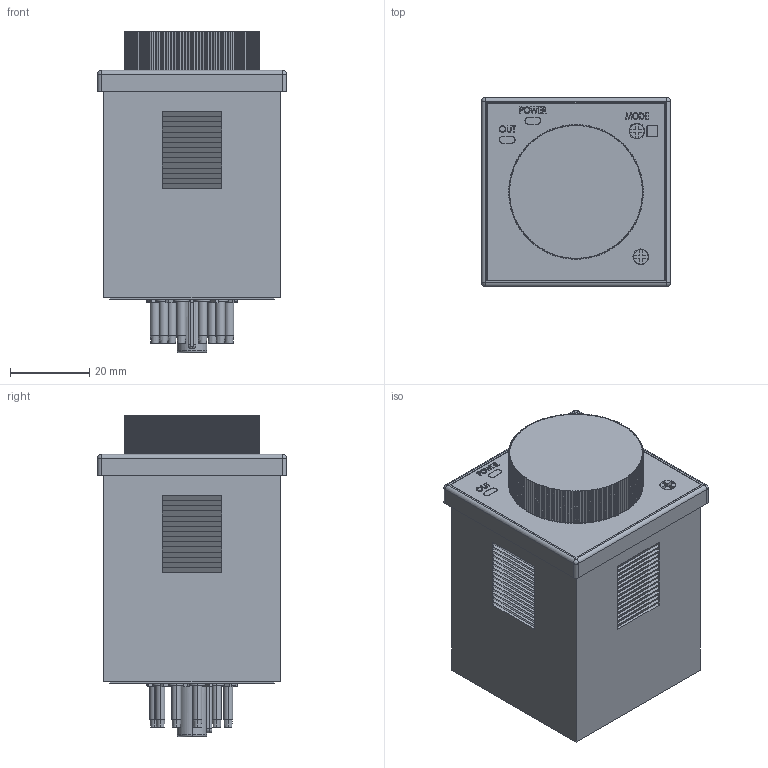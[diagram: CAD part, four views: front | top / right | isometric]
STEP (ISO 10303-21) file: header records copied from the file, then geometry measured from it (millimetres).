
FILE_DESCRIPTION (( 'STEP AP203' ), '1' );
FILE_NAME ('AV16BA.STEP', '2019-02-13T20:30:26', ( '' ), ( '' ), 'SwSTEP 2.0', 'SolidWorks 2012', '' );
FILE_SCHEMA (( 'CONFIG_CONTROL_DESIGN' ));
Products named in the file (1): AV16BA
Bounding box: 47.8 x 47.8 x 81.3 mm (x, y, z)
Volume: 119727.9 mm3; surface area: 22402.1 mm2
Topology: 1 solids, 3 shells, 1490 faces, 3901 edges, 2508 vertices
Faces by surface type: plane 762, cylinder 511, bspline 187, cone 22, torus 4, sphere 4
Entity records: 56987 total; most frequent: CARTESIAN_POINT 20516, ORIENTED_EDGE 7794, DIRECTION 7306, EDGE_CURVE 3897, VERTEX_POINT 2508, AXIS2_PLACEMENT_3D 2480, VECTOR 2346, LINE 2346
